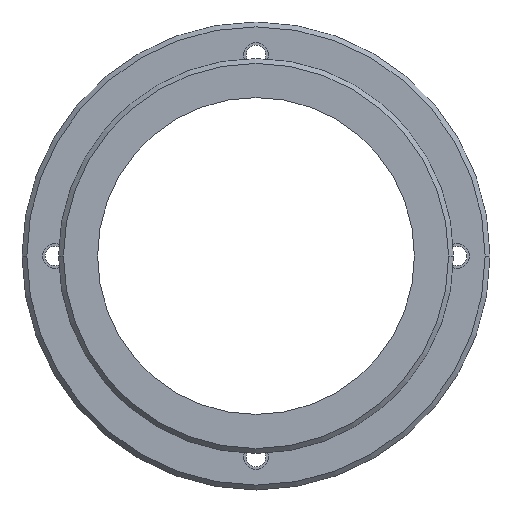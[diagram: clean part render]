
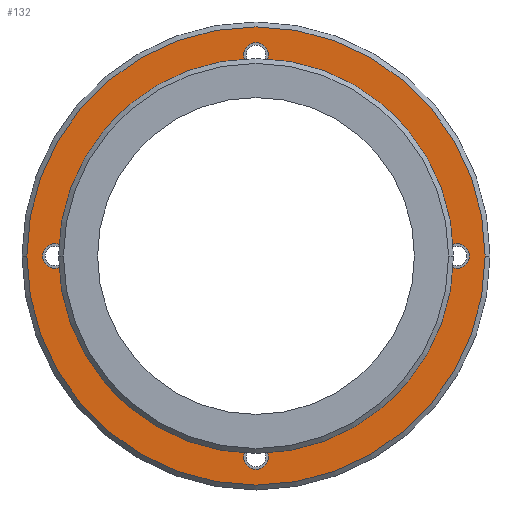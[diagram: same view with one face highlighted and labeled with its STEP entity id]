
A CAD part, left-side view. The second image highlights one B-rep face of the part: STEP entity #132.
In plain terms, the highlighted planar face has unit normal (-1, 0, 0).
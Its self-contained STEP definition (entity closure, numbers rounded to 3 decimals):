
#70=FACE_BOUND('',#244,.F.);
#71=FACE_BOUND('',#245,.F.);
#72=FACE_BOUND('',#246,.F.);
#73=FACE_BOUND('',#247,.F.);
#74=FACE_BOUND('',#248,.F.);
#86=PLANE('',#974);
#132=ADVANCED_FACE('',(#70,#71,#72,#73,#74,#188),#86,.T.);
#188=FACE_OUTER_BOUND('',#249,.F.);
#244=EDGE_LOOP('',(#334,#335));
#245=EDGE_LOOP('',(#336,#337));
#246=EDGE_LOOP('',(#338,#339));
#247=EDGE_LOOP('',(#340,#341));
#248=EDGE_LOOP('',(#342,#343));
#249=EDGE_LOOP('',(#344,#345));
#334=ORIENTED_EDGE('',*,*,#685,.T.);
#335=ORIENTED_EDGE('',*,*,#675,.T.);
#336=ORIENTED_EDGE('',*,*,#690,.T.);
#337=ORIENTED_EDGE('',*,*,#691,.T.);
#338=ORIENTED_EDGE('',*,*,#669,.T.);
#339=ORIENTED_EDGE('',*,*,#668,.T.);
#340=ORIENTED_EDGE('',*,*,#694,.T.);
#341=ORIENTED_EDGE('',*,*,#695,.T.);
#342=ORIENTED_EDGE('',*,*,#663,.T.);
#343=ORIENTED_EDGE('',*,*,#662,.T.);
#344=ORIENTED_EDGE('',*,*,#684,.F.);
#345=ORIENTED_EDGE('',*,*,#674,.F.);
#662=EDGE_CURVE('',#893,#892,#782,.T.);
#663=EDGE_CURVE('',#892,#893,#783,.T.);
#668=EDGE_CURVE('',#885,#884,#788,.T.);
#669=EDGE_CURVE('',#884,#885,#789,.T.);
#674=EDGE_CURVE('',#881,#880,#794,.T.);
#675=EDGE_CURVE('',#879,#878,#795,.T.);
#684=EDGE_CURVE('',#880,#881,#798,.T.);
#685=EDGE_CURVE('',#878,#879,#799,.T.);
#690=EDGE_CURVE('',#871,#870,#804,.T.);
#691=EDGE_CURVE('',#870,#871,#805,.T.);
#694=EDGE_CURVE('',#867,#866,#808,.T.);
#695=EDGE_CURVE('',#866,#867,#809,.T.);
#782=CIRCLE('',#928,1.25);
#783=CIRCLE('',#929,1.25);
#788=CIRCLE('',#934,1.25);
#789=CIRCLE('',#935,1.25);
#794=CIRCLE('',#940,23.5);
#795=CIRCLE('',#941,19.25);
#798=CIRCLE('',#944,23.5);
#799=CIRCLE('',#945,19.25);
#804=CIRCLE('',#950,1.25);
#805=CIRCLE('',#951,1.25);
#808=CIRCLE('',#954,1.25);
#809=CIRCLE('',#955,1.25);
#866=VERTEX_POINT('',#1390);
#867=VERTEX_POINT('',#1391);
#870=VERTEX_POINT('',#1394);
#871=VERTEX_POINT('',#1395);
#878=VERTEX_POINT('',#1402);
#879=VERTEX_POINT('',#1403);
#880=VERTEX_POINT('',#1404);
#881=VERTEX_POINT('',#1405);
#884=VERTEX_POINT('',#1408);
#885=VERTEX_POINT('',#1409);
#892=VERTEX_POINT('',#1416);
#893=VERTEX_POINT('',#1417);
#928=AXIS2_PLACEMENT_3D('',#1418,#1063,#1064);
#929=AXIS2_PLACEMENT_3D('',#1419,#1065,#1066);
#934=AXIS2_PLACEMENT_3D('',#1424,#1075,#1076);
#935=AXIS2_PLACEMENT_3D('',#1425,#1077,#1078);
#940=AXIS2_PLACEMENT_3D('',#1430,#1087,#1088);
#941=AXIS2_PLACEMENT_3D('',#1431,#1089,#1090);
#944=AXIS2_PLACEMENT_3D('',#1440,#1101,#1102);
#945=AXIS2_PLACEMENT_3D('',#1441,#1103,#1104);
#950=AXIS2_PLACEMENT_3D('',#1446,#1113,#1114);
#951=AXIS2_PLACEMENT_3D('',#1447,#1115,#1116);
#954=AXIS2_PLACEMENT_3D('',#1450,#1121,#1122);
#955=AXIS2_PLACEMENT_3D('',#1451,#1123,#1124);
#974=AXIS2_PLACEMENT_3D('',#1488,#1179,#1180);
#1063=DIRECTION('',(-1.,0.,0.));
#1064=DIRECTION('',(0.,0.,-1.));
#1065=DIRECTION('',(-1.,0.,0.));
#1066=DIRECTION('',(0.,0.,1.));
#1075=DIRECTION('',(-1.,0.,0.));
#1076=DIRECTION('',(0.,0.,1.));
#1077=DIRECTION('',(-1.,0.,0.));
#1078=DIRECTION('',(0.,0.,-1.));
#1087=DIRECTION('',(-1.,0.,0.));
#1088=DIRECTION('',(0.,1.,0.));
#1089=DIRECTION('',(-1.,0.,0.));
#1090=DIRECTION('',(0.,1.,0.));
#1101=DIRECTION('',(-1.,0.,0.));
#1102=DIRECTION('',(0.,-1.,0.));
#1103=DIRECTION('',(-1.,0.,0.));
#1104=DIRECTION('',(0.,-1.,0.));
#1113=DIRECTION('',(-1.,0.,0.));
#1114=DIRECTION('',(0.,1.,0.));
#1115=DIRECTION('',(-1.,0.,0.));
#1116=DIRECTION('',(0.,-1.,0.));
#1121=DIRECTION('',(-1.,0.,0.));
#1122=DIRECTION('',(0.,-1.,0.));
#1123=DIRECTION('',(-1.,0.,0.));
#1124=DIRECTION('',(0.,1.,0.));
#1179=DIRECTION('',(-1.,0.,0.));
#1180=DIRECTION('',(0.,0.,1.));
#1390=CARTESIAN_POINT('',(5.5,1.25,-20.625));
#1391=CARTESIAN_POINT('',(5.5,-1.25,-20.625));
#1394=CARTESIAN_POINT('',(5.5,-1.25,20.625));
#1395=CARTESIAN_POINT('',(5.5,1.25,20.625));
#1402=CARTESIAN_POINT('',(5.5,-19.25,0.));
#1403=CARTESIAN_POINT('',(5.5,19.25,0.));
#1404=CARTESIAN_POINT('',(5.5,-23.5,0.));
#1405=CARTESIAN_POINT('',(5.5,23.5,0.));
#1408=CARTESIAN_POINT('',(5.5,20.625,-1.25));
#1409=CARTESIAN_POINT('',(5.5,20.625,1.25));
#1416=CARTESIAN_POINT('',(5.5,-20.625,1.25));
#1417=CARTESIAN_POINT('',(5.5,-20.625,-1.25));
#1418=CARTESIAN_POINT('',(5.5,-20.625,0.));
#1419=CARTESIAN_POINT('',(5.5,-20.625,0.));
#1424=CARTESIAN_POINT('',(5.5,20.625,0.));
#1425=CARTESIAN_POINT('',(5.5,20.625,0.));
#1430=CARTESIAN_POINT('',(5.5,0.,0.));
#1431=CARTESIAN_POINT('',(5.5,0.,0.));
#1440=CARTESIAN_POINT('',(5.5,0.,0.));
#1441=CARTESIAN_POINT('',(5.5,0.,0.));
#1446=CARTESIAN_POINT('',(5.5,0.,20.625));
#1447=CARTESIAN_POINT('',(5.5,0.,20.625));
#1450=CARTESIAN_POINT('',(5.5,0.,-20.625));
#1451=CARTESIAN_POINT('',(5.5,0.,-20.625));
#1488=CARTESIAN_POINT('',(5.5,-23.97,-23.97));
